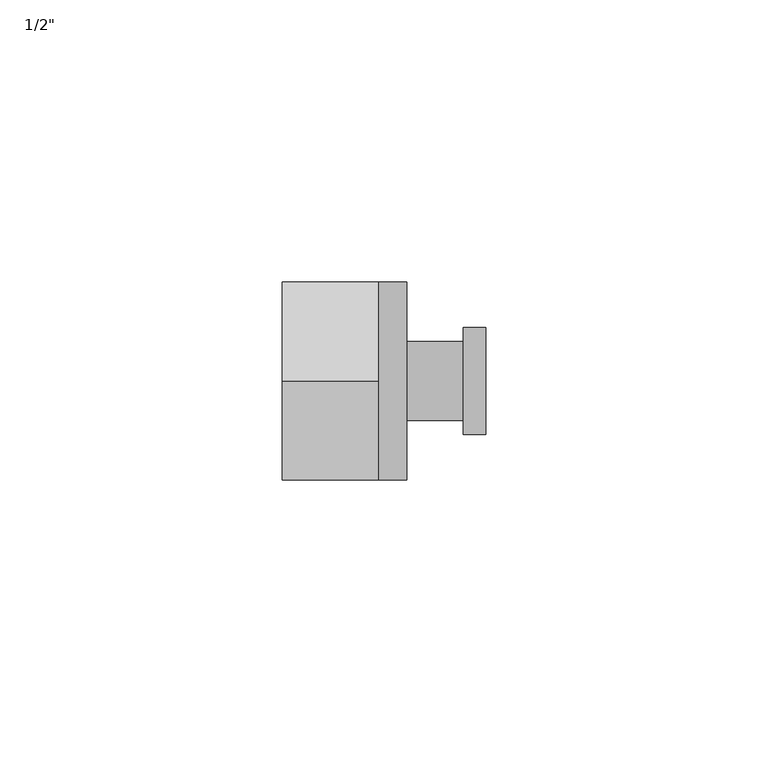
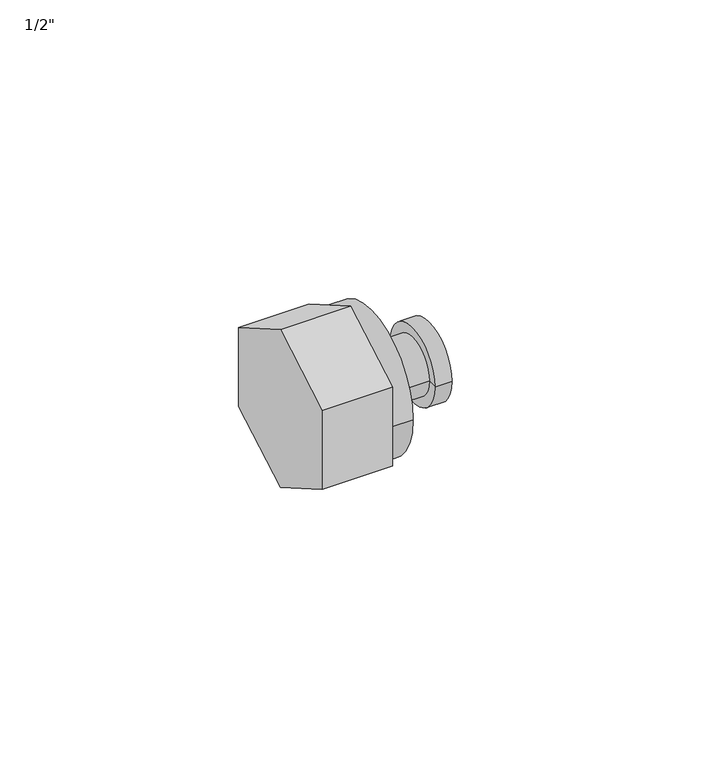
"""IFC4 building model written with IfcOpenShell, lengths in millimetres: pipe fitting geometry."""

from ifc_helpers import new_model, si_unit, frame, origin, place, context, project, spatial, polyline, circle_curve, outline, extrude, source, transform, mapped, element, save
from ifc_brep_helpers import plane_surface, cylinder_surface, advanced_brep


def pipe_fitting_3549ee6d(model_context):
    return source(origin(), model_context, "Body", "SolidModel", [
        extrude(outline(polyline([(0.0, -20.2072594), (-17.5, -10.1036297), (-17.5, 10.1036297), (0.0, 20.2072594), (17.5, 10.1036297), (17.5, -10.1036297), (0.0, -20.2072594)])), frame((-12.0, 0.0, 0.0), z_axis=(1.0, 0.0, 0.0), x_axis=(0.0, 1.0, 0.0)), (0.0, 0.0, 1.0), 17.0),
        advanced_brep(
        [(24.0, -9.5, 0.0), (24.0, 9.5, 0.0), (24.0, 0.0, 0.0), (10.0, -7.0, 0.0), (10.0, 7.0, 0.0), (20.0, 7.0, 0.0), (20.0, -7.0, 0.0), (10.0, -17.5, 0.0), (10.0, 17.5, 0.0), (0.0, -17.5, 0.0), (0.0, 17.5, 0.0), (0.0, 0.0, 0.0), (20.0, -9.5, 0.0), (20.0, 9.5, 0.0)],
        [
            (0, 1, circle_curve(frame((24.0, 0.0, 0.0), z_axis=(1.0, 0.0, 0.0), x_axis=(0.0, 1.0, 0.0)), 9.5)),
            (1, 2),
            (2, 0),
            (1, 0, circle_curve(frame((24.0, 0.0, 0.0), z_axis=(1.0, 0.0, 0.0), x_axis=(0.0, 1.0, 0.0)), 9.5)),
            (3, 4, circle_curve(frame((10.0, 0.0, 0.0), z_axis=(1.0, 0.0, 0.0), x_axis=(0.0, 1.0, 0.0)), 7.0)),
            (4, 5),
            (5, 6, circle_curve(frame((20.0, 0.0, 0.0), z_axis=(-1.0, 0.0, 0.0), x_axis=(0.0, 1.0, 0.0)), 7.0)),
            (6, 3),
            (4, 3, circle_curve(frame((10.0, 0.0, 0.0), z_axis=(1.0, 0.0, 0.0), x_axis=(0.0, 1.0, 0.0)), 7.0)),
            (6, 5, circle_curve(frame((20.0, 0.0, 0.0), z_axis=(-1.0, 0.0, 0.0), x_axis=(0.0, 1.0, 0.0)), 7.0)),
            (7, 8, circle_curve(frame((10.0, 0.0, 0.0), z_axis=(1.0, 0.0, 0.0), x_axis=(0.0, 1.0, 0.0)), 17.5)),
            (8, 4),
            (3, 7),
            (8, 7, circle_curve(frame((10.0, 0.0, 0.0), z_axis=(1.0, 0.0, 0.0), x_axis=(0.0, 1.0, 0.0)), 17.5)),
            (9, 10, circle_curve(frame((0.0, 0.0, 0.0), z_axis=(1.0, 0.0, 0.0), x_axis=(0.0, 1.0, 0.0)), 17.5)),
            (10, 8),
            (7, 9),
            (10, 9, circle_curve(frame((0.0, 0.0, 0.0), z_axis=(1.0, 0.0, 0.0), x_axis=(0.0, 1.0, 0.0)), 17.5)),
            (11, 10),
            (9, 11),
            (12, 13, circle_curve(frame((20.0, 0.0, 0.0), z_axis=(1.0, 0.0, 0.0), x_axis=(0.0, 1.0, 0.0)), 9.5)),
            (13, 1),
            (0, 12),
            (13, 12, circle_curve(frame((20.0, 0.0, 0.0), z_axis=(1.0, 0.0, 0.0), x_axis=(0.0, 1.0, 0.0)), 9.5)),
            (5, 13),
            (12, 6),
        ],
        [
            plane_surface(frame((24.0, 0.0, 0.0), z_axis=(1.0, 0.0, 0.0), x_axis=(0.0, 1.0, 0.0))),
            cylinder_surface(frame((2008.0, 0.0, 0.0), z_axis=(-1.0, 0.0, 0.0), x_axis=(0.0, 1.0, 0.0)), 7.0),
            plane_surface(frame((10.0, 0.0, 0.0), z_axis=(1.0, 0.0, 0.0), x_axis=(0.0, 1.0, 0.0))),
            cylinder_surface(frame((2008.0, 0.0, 0.0), z_axis=(-1.0, 0.0, 0.0), x_axis=(0.0, 1.0, 0.0)), 17.5),
            plane_surface(frame((0.0, 0.0, 0.0), z_axis=(-1.0, 0.0, 0.0), x_axis=(0.0, 1.0, 0.0))),
            cylinder_surface(frame((2008.0, 0.0, 0.0), z_axis=(-1.0, 0.0, 0.0), x_axis=(0.0, 1.0, 0.0)), 9.5),
            plane_surface(frame((20.0, 0.0, 0.0), z_axis=(-1.0, 0.0, 0.0), x_axis=(0.0, 1.0, 0.0))),
        ],
        [
            (0, [[1, 2, 3]]),
            (0, [[4, -3, -2]]),
            (1, [[5, 6, 7, 8]]),
            (1, [[9, -8, 10, -6]]),
            (2, [[11, 12, -5, 13]]),
            (2, [[14, -13, -9, -12]]),
            (3, [[15, 16, -11, 17]]),
            (3, [[18, -17, -14, -16]]),
            (4, [[19, -15, 20]]),
            (4, [[-20, -18, -19]]),
            (5, [[21, 22, -1, 23]]),
            (5, [[24, -23, -4, -22]]),
            (6, [[-7, 25, -21, 26]]),
            (6, [[-10, -26, -24, -25]]),
        ],
    ),
    ])


if __name__ == "__main__":
    model = new_model("IFC4")
    model_context = context("Model", 3, world=origin())
    ifc_project = project(units=[si_unit("LENGTHUNIT", "METRE", prefix="MILLI")], contexts=[model_context])
    site = spatial("IfcSite", under=ifc_project)
    building = spatial("IfcBuilding", under=site)
    placement = place(None, origin())
    pipe_fitting_shape = pipe_fitting_3549ee6d(model_context)
    element("IfcPipeFitting", 1, ObjectType="KAN-therm Push złączka PPSU z gw : 1/2\"", at=placement, inside=building, context=model_context, shape_type="MappedRepresentation", body=[
        mapped(pipe_fitting_shape, transform((0.0, 0.0, 0.0), x_axis=(1.0, 0.0, 0.0), y_axis=(0.0, 1.0, 0.0), z_axis=(0.0, 0.0, 1.0))),
    ])
    save(model, "model.ifc")
